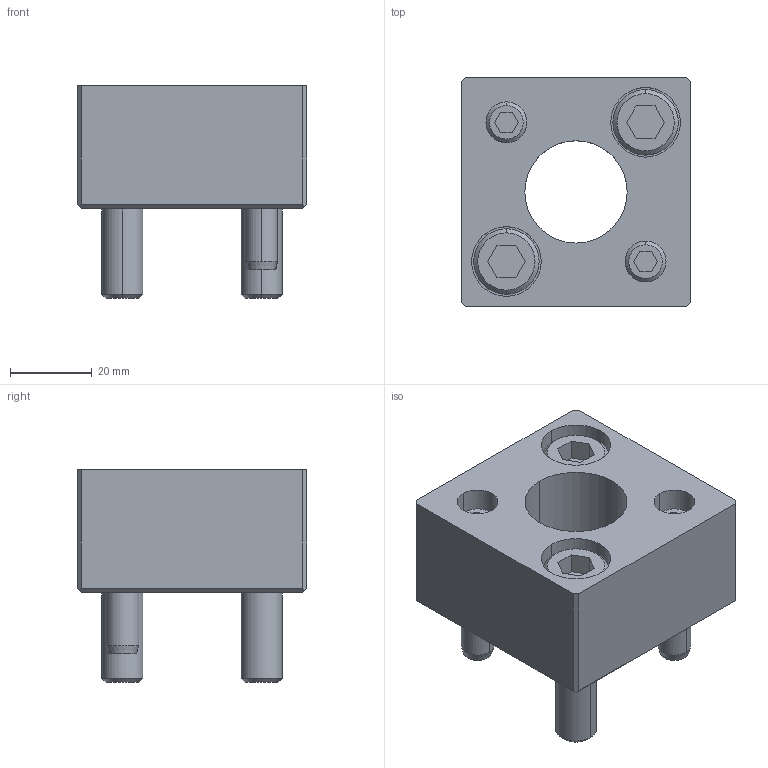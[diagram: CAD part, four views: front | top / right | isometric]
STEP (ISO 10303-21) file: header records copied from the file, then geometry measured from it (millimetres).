
FILE_DESCRIPTION(/* description */ (''),/* implementation_level */ '2;1');
FILE_NAME(/* name */ '3d_asar25_03218_r00.stp',/* time_stamp */ '2011-01-10T14:17:36+09:00',/* author */ ('MISUMI'),/* organization */ (''),/* preprocessor_version */ 'ST-DEVELOPER v11',/* originating_system */ 'UGS - NX 5.0',/* authorisation */ '');
FILE_SCHEMA (('CONFIG_CONTROL_DESIGN'));
Length unit declared in the file: millimetre
Products named in the file (1): 3d_asar25_03218_r00
Bounding box: 56 x 56 x 52 mm (x, y, z)
Volume: 77973.1 mm3; surface area: 25387.9 mm2
Topology: 7 solids, 7 shells, 139 faces, 306 edges, 196 vertices
Faces by surface type: plane 67, cylinder 46, cone 26
Entity records: 3950 total; most frequent: DIRECTION 698, CARTESIAN_POINT 684, ORIENTED_EDGE 612, EDGE_CURVE 306, AXIS2_PLACEMENT_3D 258, VERTEX_POINT 196, LINE 182, VECTOR 182
